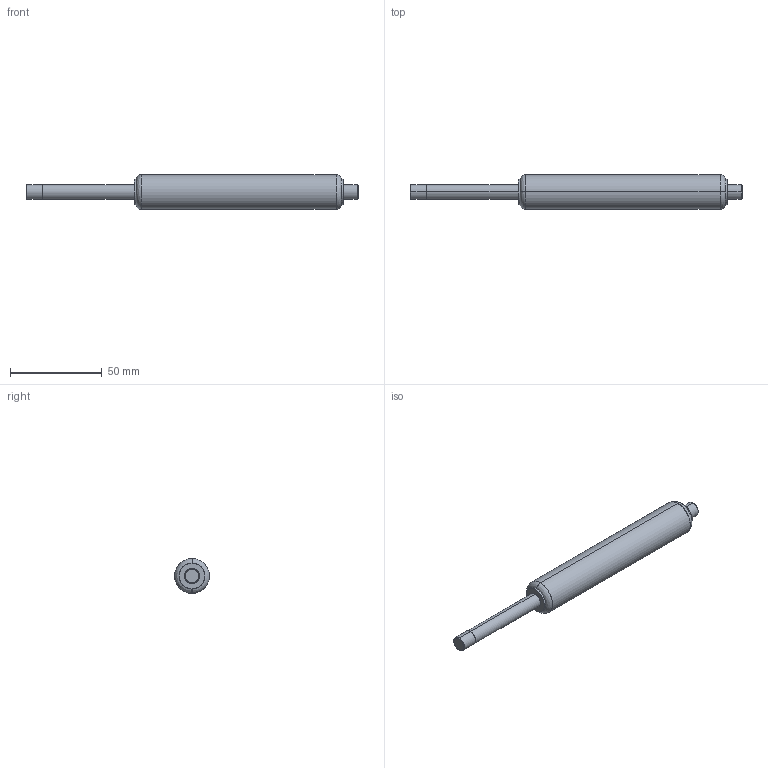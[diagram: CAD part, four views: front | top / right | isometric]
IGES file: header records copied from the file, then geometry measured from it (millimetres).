
Start section: SolidWorks IGES file using analytic representation for surfaces
Bounding box: 181 x 19 x 19 mm (x, y, z)
Surface area: 8860.4 mm2 (no closed solid volume)
Topology: 0 solids, 0 shells, 25 faces, 336 edges, 336 vertices
Faces by surface type: revolution 16, bspline 9
